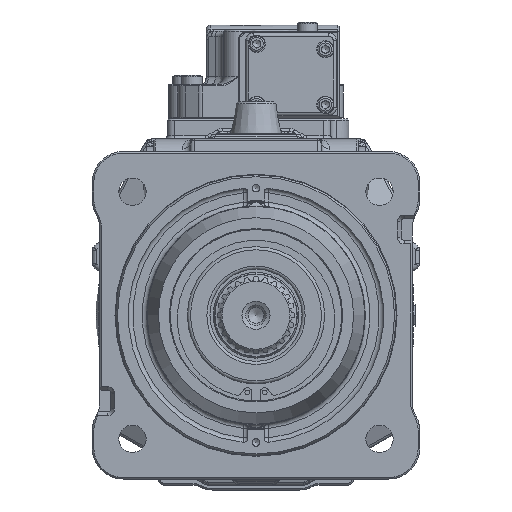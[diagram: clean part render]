
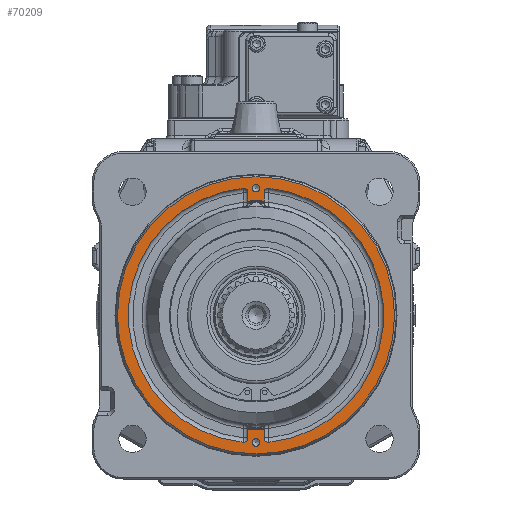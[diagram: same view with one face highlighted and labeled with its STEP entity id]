
A CAD part, front view. The second image highlights one B-rep face of the part: STEP entity #70209.
In plain terms, the highlighted planar face has unit normal (0, -1, 0).
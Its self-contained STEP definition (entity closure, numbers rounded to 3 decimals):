
#3401=LINE('',#113735,#8477);
#3404=LINE('',#113789,#8480);
#3680=LINE('',#117690,#8756);
#3683=LINE('',#117767,#8759);
#8477=VECTOR('',#85144,5.374);
#8480=VECTOR('',#85175,5.374);
#8756=VECTOR('',#86079,5.374);
#8759=VECTOR('',#86104,5.374);
#12580=FACE_BOUND('',#21717,.T.);
#12581=FACE_BOUND('',#21718,.T.);
#12582=FACE_BOUND('',#21719,.T.);
#13267=PLANE('',#75331);
#17566=FACE_OUTER_BOUND('',#21716,.T.);
#21716=EDGE_LOOP('',(#51033));
#21717=EDGE_LOOP('',(#51034));
#21718=EDGE_LOOP('',(#51035));
#21719=EDGE_LOOP('',(#51036,#51037,#51038,#51039,#51040,#51041,#51042,#51043,
#51044,#51045,#51046,#51047));
#25654=CIRCLE('',#74976,2.862);
#25656=CIRCLE('',#74979,81.862);
#25658=CIRCLE('',#74982,2.862);
#25780=CIRCLE('',#75303,2.862);
#25782=CIRCLE('',#75306,81.862);
#25784=CIRCLE('',#75309,2.862);
#25790=CIRCLE('',#75318,88.845);
#25796=CIRCLE('',#75330,73.4);
#25797=CIRCLE('',#75332,2.459);
#25798=CIRCLE('',#75333,2.459);
#25799=CIRCLE('',#75334,73.4);
#29718=VERTEX_POINT('',#113733);
#29719=VERTEX_POINT('',#113734);
#29722=VERTEX_POINT('',#113770);
#29723=VERTEX_POINT('',#113774);
#29724=VERTEX_POINT('',#113778);
#29728=VERTEX_POINT('',#113788);
#30045=VERTEX_POINT('',#117688);
#30046=VERTEX_POINT('',#117689);
#30048=VERTEX_POINT('',#117723);
#30049=VERTEX_POINT('',#117727);
#30050=VERTEX_POINT('',#117731);
#30053=VERTEX_POINT('',#117738);
#30059=VERTEX_POINT('',#117905);
#30061=VERTEX_POINT('',#117922);
#30062=VERTEX_POINT('',#117924);
#37127=EDGE_CURVE('',#29718,#29719,#3401,.T.);
#37132=EDGE_CURVE('',#29719,#29722,#25654,.T.);
#37134=EDGE_CURVE('',#29722,#29723,#25656,.T.);
#37136=EDGE_CURVE('',#29723,#29724,#25658,.T.);
#37141=EDGE_CURVE('',#29724,#29728,#3404,.T.);
#37713=EDGE_CURVE('',#30045,#30046,#3680,.T.);
#37717=EDGE_CURVE('',#30048,#30045,#25780,.T.);
#37719=EDGE_CURVE('',#30049,#30048,#25782,.T.);
#37721=EDGE_CURVE('',#30050,#30049,#25784,.T.);
#37725=EDGE_CURVE('',#30053,#30050,#3683,.T.);
#37737=EDGE_CURVE('',#30059,#30059,#25790,.T.);
#37743=EDGE_CURVE('',#30046,#29718,#25796,.T.);
#37744=EDGE_CURVE('',#30061,#30061,#25797,.T.);
#37745=EDGE_CURVE('',#30062,#30062,#25798,.T.);
#37746=EDGE_CURVE('',#29728,#30053,#25799,.T.);
#51033=ORIENTED_EDGE('',*,*,#37737,.T.);
#51034=ORIENTED_EDGE('',*,*,#37744,.T.);
#51035=ORIENTED_EDGE('',*,*,#37745,.T.);
#51036=ORIENTED_EDGE('',*,*,#37746,.F.);
#51037=ORIENTED_EDGE('',*,*,#37141,.F.);
#51038=ORIENTED_EDGE('',*,*,#37136,.F.);
#51039=ORIENTED_EDGE('',*,*,#37134,.F.);
#51040=ORIENTED_EDGE('',*,*,#37132,.F.);
#51041=ORIENTED_EDGE('',*,*,#37127,.F.);
#51042=ORIENTED_EDGE('',*,*,#37743,.F.);
#51043=ORIENTED_EDGE('',*,*,#37713,.F.);
#51044=ORIENTED_EDGE('',*,*,#37717,.F.);
#51045=ORIENTED_EDGE('',*,*,#37719,.F.);
#51046=ORIENTED_EDGE('',*,*,#37721,.F.);
#51047=ORIENTED_EDGE('',*,*,#37725,.F.);
#70209=ADVANCED_FACE('',(#17566,#12580,#12581,#12582),#13267,.F.);
#74976=AXIS2_PLACEMENT_3D('',#113771,#85152,#85153);
#74979=AXIS2_PLACEMENT_3D('',#113775,#85158,#85159);
#74982=AXIS2_PLACEMENT_3D('',#113779,#85164,#85165);
#75303=AXIS2_PLACEMENT_3D('',#117724,#86085,#86086);
#75306=AXIS2_PLACEMENT_3D('',#117728,#86091,#86092);
#75309=AXIS2_PLACEMENT_3D('',#117732,#86097,#86098);
#75318=AXIS2_PLACEMENT_3D('',#117907,#86118,#86119);
#75330=AXIS2_PLACEMENT_3D('',#117920,#86142,#86143);
#75331=AXIS2_PLACEMENT_3D('',#117921,#86144,#86145);
#75332=AXIS2_PLACEMENT_3D('',#117923,#86146,#86147);
#75333=AXIS2_PLACEMENT_3D('',#117925,#86148,#86149);
#75334=AXIS2_PLACEMENT_3D('',#117926,#86150,#86151);
#85144=DIRECTION('',(0.,0.,1.));
#85152=DIRECTION('center_axis',(0.,-1.,0.));
#85153=DIRECTION('ref_axis',(0.,0.,
-1.));
#85158=DIRECTION('center_axis',(0.,-1.,0.));
#85159=DIRECTION('ref_axis',(0.,0.,
-1.));
#85164=DIRECTION('center_axis',(0.,-1.,0.));
#85165=DIRECTION('ref_axis',(0.,0.,
-1.));
#85175=DIRECTION('',(0.,0.,1.));
#86079=DIRECTION('',(0.,0.,-1.));
#86085=DIRECTION('center_axis',(0.,-1.,0.));
#86086=DIRECTION('ref_axis',(0.,0.,
-1.));
#86091=DIRECTION('center_axis',(0.,-1.,0.));
#86092=DIRECTION('ref_axis',(0.,0.,
-1.));
#86097=DIRECTION('center_axis',(0.,-1.,0.));
#86098=DIRECTION('ref_axis',(0.,0.,
-1.));
#86104=DIRECTION('',(0.,0.,-1.));
#86118=DIRECTION('center_axis',(0.,-1.,0.));
#86119=DIRECTION('ref_axis',(0.,0.,
1.));
#86142=DIRECTION('center_axis',(0.,-1.,0.));
#86143=DIRECTION('ref_axis',(0.,0.,
1.));
#86144=DIRECTION('center_axis',(0.,1.,0.));
#86145=DIRECTION('ref_axis',(0.,0.,
1.));
#86146=DIRECTION('center_axis',(0.,1.,0.));
#86147=DIRECTION('ref_axis',(1.,0.,0.));
#86148=DIRECTION('center_axis',(0.,1.,0.));
#86149=DIRECTION('ref_axis',(1.,0.,0.));
#86150=DIRECTION('center_axis',(0.,-1.,0.));
#86151=DIRECTION('ref_axis',(0.,0.,
-1.));
#113733=CARTESIAN_POINT('',(0.051,-188.653,245.487));
#113734=CARTESIAN_POINT('',(0.051,-188.653,250.861));
#113735=CARTESIAN_POINT('',(0.051,-188.653,245.487));
#113770=CARTESIAN_POINT('',(-3.101,-188.653,253.708));
#113771=CARTESIAN_POINT('Origin',(-2.811,-188.653,250.861));
#113774=CARTESIAN_POINT('',(-3.101,-188.653,90.826));
#113775=CARTESIAN_POINT('Origin',(5.189,-188.653,172.267));
#113778=CARTESIAN_POINT('',(0.051,-188.653,93.673));
#113779=CARTESIAN_POINT('Origin',(-2.811,-188.653,93.673));
#113788=CARTESIAN_POINT('',(0.051,-188.653,99.047));
#113789=CARTESIAN_POINT('',(0.051,-188.653,93.673));
#117688=CARTESIAN_POINT('',(10.327,-188.653,250.861));
#117689=CARTESIAN_POINT('',(10.327,-188.653,245.487));
#117690=CARTESIAN_POINT('',(10.327,-188.653,250.861));
#117723=CARTESIAN_POINT('',(13.479,-188.653,253.708));
#117724=CARTESIAN_POINT('Origin',(13.189,-188.653,250.861));
#117727=CARTESIAN_POINT('',(13.479,-188.653,90.826));
#117728=CARTESIAN_POINT('Origin',(5.189,-188.653,172.267));
#117731=CARTESIAN_POINT('',(10.327,-188.653,93.673));
#117732=CARTESIAN_POINT('Origin',(13.189,-188.653,93.673));
#117738=CARTESIAN_POINT('',(10.327,-188.653,99.047));
#117767=CARTESIAN_POINT('',(10.327,-188.653,99.047));
#117905=CARTESIAN_POINT('',(5.189,-188.653,83.421));
#117907=CARTESIAN_POINT('Origin',(5.189,-188.653,172.267));
#117920=CARTESIAN_POINT('Origin',(5.189,-188.653,172.267));
#117921=CARTESIAN_POINT('Origin',(5.189,-188.653,253.189));
#117922=CARTESIAN_POINT('',(2.73,-188.653,90.767));
#117923=CARTESIAN_POINT('Origin',(5.189,-188.653,90.767));
#117924=CARTESIAN_POINT('',(2.73,-188.653,253.767));
#117925=CARTESIAN_POINT('Origin',(5.189,-188.653,253.767));
#117926=CARTESIAN_POINT('Origin',(5.189,-188.653,172.267));
